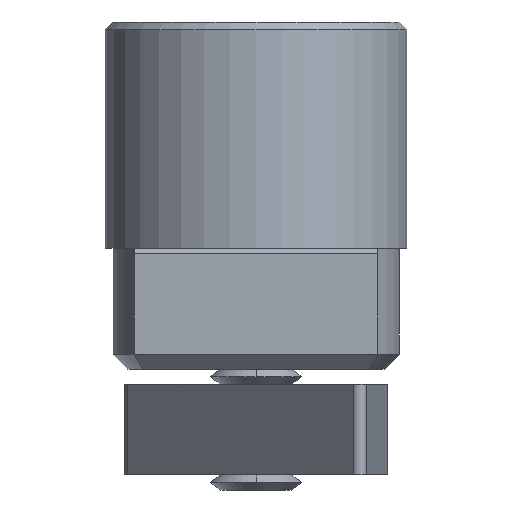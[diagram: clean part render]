
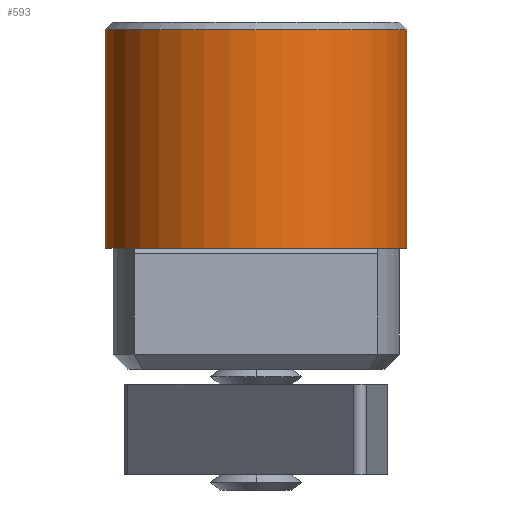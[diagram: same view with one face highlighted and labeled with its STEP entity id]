
A CAD part, front view. The second image highlights one B-rep face of the part: STEP entity #593.
In plain terms, the highlighted cylindrical face has radius 10 mm (diameter 20 mm), a partial arc.
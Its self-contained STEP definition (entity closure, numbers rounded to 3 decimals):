
#450 = VERTEX_POINT ( 'NONE', #1634 ) ;
#474 = VERTEX_POINT ( 'NONE', #1656 ) ;
#528 = EDGE_CURVE ( 'NONE', #474, #529, #1731, .T. ) ;
#529 = VERTEX_POINT ( 'NONE', #1727 ) ;
#532 = VERTEX_POINT ( 'NONE', #1784 ) ;
#534 = EDGE_CURVE ( 'NONE', #450, #532, #1783, .T. ) ;
#568 = ORIENTED_EDGE ( 'NONE', *, *, #528, .F. ) ;
#569 = ORIENTED_EDGE ( 'NONE', *, *, #570, .T. ) ;
#570 = EDGE_CURVE ( 'NONE', #474, #450, #1849, .T. ) ;
#571 = ORIENTED_EDGE ( 'NONE', *, *, #534, .T. ) ;
#572 = ORIENTED_EDGE ( 'NONE', *, *, #595, .T. ) ;
#593 = ADVANCED_FACE ( 'NONE', ( #1869 ), #1868, .T. ) ;
#594 = EDGE_LOOP ( 'NONE', ( #568, #569, #571, #572 ) ) ;
#595 = EDGE_CURVE ( 'NONE', #532, #529, #1866, .T. ) ;
#1634 = CARTESIAN_POINT ( 'NONE',  ( -10., 0., 14.5 ) ) ;
#1656 = CARTESIAN_POINT ( 'NONE',  ( 10., 0., 14.5 ) ) ;
#1727 = CARTESIAN_POINT ( 'NONE',  ( 10., 0., 0. ) ) ;
#1728 = DIRECTION ( 'NONE',  ( 0., 0., -1. ) ) ;
#1729 = VECTOR ( 'NONE', #1728, 1000. ) ;
#1730 = CARTESIAN_POINT ( 'NONE',  ( 10., 0., 15. ) ) ;
#1731 = LINE ( 'NONE', #1730, #1729 ) ;
#1780 = DIRECTION ( 'NONE',  ( 0., 0., -1. ) ) ;
#1781 = VECTOR ( 'NONE', #1780, 1000. ) ;
#1782 = CARTESIAN_POINT ( 'NONE',  ( -10., 0., 15. ) ) ;
#1783 = LINE ( 'NONE', #1782, #1781 ) ;
#1784 = CARTESIAN_POINT ( 'NONE',  ( -10., 0., 0. ) ) ;
#1845 = DIRECTION ( 'NONE',  ( 1., 0., 0. ) ) ;
#1846 = DIRECTION ( 'NONE',  ( 0., 0., -1. ) ) ;
#1847 = CARTESIAN_POINT ( 'NONE',  ( 0., 0., 14.5 ) ) ;
#1848 = AXIS2_PLACEMENT_3D ( 'NONE', #1847, #1846, #1845 ) ;
#1849 = CIRCLE ( 'NONE', #1848, 10. ) ;
#1859 = DIRECTION ( 'NONE',  ( 1., 0., 0. ) ) ;
#1860 = DIRECTION ( 'NONE',  ( 0., 0., 1. ) ) ;
#1861 = CARTESIAN_POINT ( 'NONE',  ( 0., 0., 0. ) ) ;
#1862 = AXIS2_PLACEMENT_3D ( 'NONE', #1861, #1860, #1859 ) ;
#1863 = DIRECTION ( 'NONE',  ( -1., 0., 0. ) ) ;
#1864 = DIRECTION ( 'NONE',  ( 0., 0., -1. ) ) ;
#1865 = AXIS2_PLACEMENT_3D ( 'NONE', #1867, #1864, #1863 ) ;
#1866 = CIRCLE ( 'NONE', #1862, 10. ) ;
#1867 = CARTESIAN_POINT ( 'NONE',  ( 0., 0., 15. ) ) ;
#1868 = CYLINDRICAL_SURFACE ( 'NONE', #1865, 10. ) ;
#1869 = FACE_OUTER_BOUND ( 'NONE', #594, .T. ) ;
